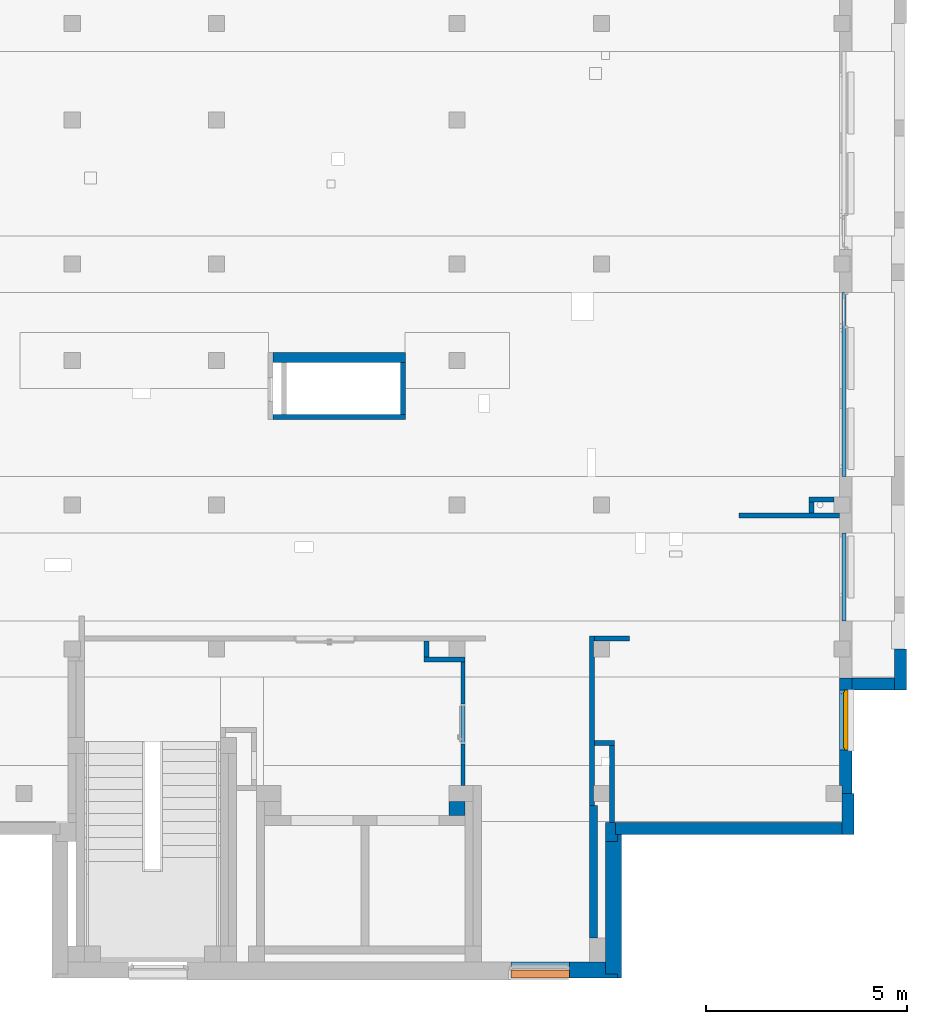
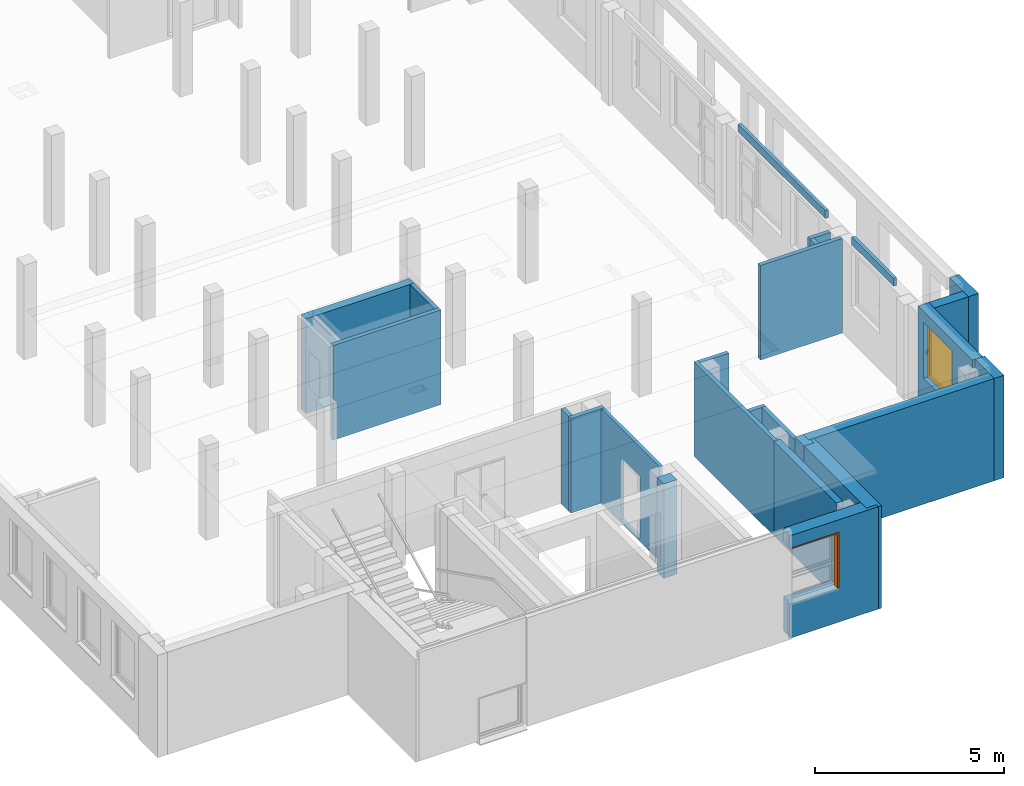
# One storey, part 5 of 27: 25 walls, 1 proxy, 1 window, 3 openings.
"""IFC4 building model written with IfcOpenShell, lengths in metres."""

from ifc_helpers import new_model, entity, si_unit, converted_unit, derived_unit, frame, frame_2d, origin, origin_with_axes, place, context, subcontext, project, spatial, polyline, rectangle, outline, extrude, clip, bounded_halfspace, closed_shell, open_shell, faceted_brep, surface_model, source, transform, mapped, material, layer, layer_set, layer_usage, element, fill, save


model = new_model("IFC4")

# Units and contexts
model_context = context("Model", 3, precision=1e-05, world=origin())
body_context = subcontext(model_context, "Body", "Model", "MODEL_VIEW")
ifc_project = project(units=[si_unit("LENGTHUNIT", "METRE"), si_unit("AREAUNIT", "SQUARE_METRE"), si_unit("VOLUMEUNIT", "CUBIC_METRE"), si_unit("MASSUNIT", "GRAM", prefix="KILO"), converted_unit("PLANEANGLEUNIT", "DEGREE", entity("IfcPlaneAngleMeasure", 0.0174532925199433), si_unit("PLANEANGLEUNIT", "RADIAN"), dimensions=[0, 0, 0, 0, 0, 0, 0]), derived_unit("THERMALTRANSMITTANCEUNIT", [(si_unit("POWERUNIT", "WATT"), 1), (si_unit("THERMODYNAMICTEMPERATUREUNIT", "KELVIN"), -1), (si_unit("LENGTHUNIT", "METRE"), -2)]), derived_unit("VOLUMETRICFLOWRATEUNIT", [(si_unit("LENGTHUNIT", "METRE"), 3), (converted_unit("TIMEUNIT", "hour", entity("IfcTimeMeasure", 3600.0), si_unit("TIMEUNIT", "SECOND"), dimensions=[0, 0, 1, 0, 0, 0, 0]), -1), (si_unit("LENGTHUNIT", "METRE"), -1)])], contexts=[model_context])

# Site, building, storey
site_placement = place(None, origin())
site = spatial("IfcSite", under=ifc_project, at=site_placement, Name="3. ASŘ", CompositionType="ELEMENT")
building_placement = place(site_placement, origin())
building = spatial("IfcBuilding", under=site, at=building_placement, Name="Pavilon C", CompositionType="ELEMENT")
storey_placement = place(building_placement, frame((0.0, 0.0, 10.5)))
storey = spatial("IfcBuildingStorey", under=building, at=storey_placement, Name="Půdorys 4.NP", CompositionType="ELEMENT", Elevation=10.5)

# Walls
ifc_material_1 = material(Name="ZELEZOBETONOVÁ KCE")
ifc_layer_1 = layer(ifc_material_1, 0.3)
ifc_layer_set_1 = layer_set([ifc_layer_1])
ifc_layer_usage_1 = layer_usage(ifc_layer_set_1, "AXIS2", "POSITIVE", 0.0)
wall_1_placement = place(storey_placement, frame((50.25, -1.02000000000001, -0.1), z_axis=(0.0, 0.0, 1.0), x_axis=(0.0, 1.0, 0.0)))
element("IfcWall", 1, at=wall_1_placement, inside=storey, material=ifc_layer_usage_1, Name="ZELEZOBETONOVÁ KCE", context=body_context, shape_type="SweptSolid", body=[
    extrude(rectangle(XDim=1.02, YDim=0.3, at=frame_2d((0.51, 0.15), x_axis=(1.0, 0.0))), origin_with_axes(), (0.0, 0.0, 1.0), 3.3),
])
ifc_material_2 = material(Name="ZELEZOBETONOVÁ KCE")
ifc_layer_2 = layer(ifc_material_2, 0.2)
ifc_layer_set_2 = layer_set([ifc_layer_2])
ifc_layer_usage_2 = layer_usage(ifc_layer_set_2, "AXIS2", "POSITIVE", 0.0)
wall_2_placement = place(storey_placement, frame((43.65, -0.299999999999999, -0.1), z_axis=(0.0, 0.0, 1.0), x_axis=(0.0, -1.0, 0.0)))
element("IfcWall", 2, at=wall_2_placement, inside=storey, material=ifc_layer_usage_2, Name="ZELEZOBETONOVÁ KCE", context=body_context, shape_type="SweptSolid", body=[
    extrude(rectangle(XDim=3.3, YDim=0.2, at=frame_2d((1.65, 0.1), x_axis=(1.0, 0.0))), origin_with_axes(), (0.0, 0.0, 1.0), 3.05),
])

# Wall, opening, window
ifc_material_3 = material(Name="PLYNOSILIKÁT")
ifc_layer_3 = layer(ifc_material_3, 0.32)
ifc_layer_set_3 = layer_set([ifc_layer_3])
ifc_layer_usage_3 = layer_usage(ifc_layer_set_3, "AXIS2", "POSITIVE", 0.0)
wall_3_placement = place(storey_placement, frame((50.2, -5.51980683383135e-15, -0.1), z_axis=(0.0, 0.0, 1.0), x_axis=(0.0, 1.0, 0.0)))
wall_3 = element("IfcWall", 3, at=wall_3_placement, inside=storey, material=ifc_layer_usage_3, Name="PLYNOSILIKÁT", context=body_context, shape_type="Clipping", body=[
    clip(extrude(rectangle(XDim=2.88, YDim=0.32, at=frame_2d((1.44, 0.16), x_axis=(1.0, 0.0))), origin_with_axes(), (0.0, 0.0, 1.0), 3.3), bounded_halfspace(frame((0.0999999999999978, 0.285, 3.05), z_axis=(0.0, 0.0, 1.0), x_axis=(0.0, 1.0, 0.0)), True, origin_with_axes(), polyline([(0.199999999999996, 0.25), (0.199999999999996, 0.32), (6.28386231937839e-17, 0.32), (6.28386231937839e-17, 0.25), (0.199999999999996, 0.25)]))),
])
opening_1_placement = place(wall_3_placement, frame((1.08, 0.0, 1.15), z_axis=(0.0, 1.0, 0.0), x_axis=(0.0, 0.0, 1.0)))
opening_1 = element("IfcOpeningElement", 4, at=opening_1_placement, cuts=wall_3, Name="Okenní otvor", ObjectType="Opening", context=body_context, shape_type="SweptSolid", body=[
    extrude(outline(polyline([(0.0, 1.5), (1.8, 1.5), (1.8, 0.0), (0.0, 0.0), (0.0, 1.5)])), origin_with_axes(), (0.0, 0.0, 1.0), 0.32),
])
shared_shape = source(origin_with_axes(), body_context, "Body", "SurfaceModel", [
    surface_model("IfcShellBasedSurfaceModel", [(0.0, 0.0920000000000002, 1.8), (0.0, 0.092, -5.63337527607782e-18), (0.08, 0.092, -5.63337527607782e-18), (0.08, 0.0920000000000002, 1.8), (0.0, 0.0, 5.63337527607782e-18), (0.0, 2.27373675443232e-16, 1.8), (0.08, 2.27373675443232e-16, 1.8), (0.08, 0.0, 5.63337527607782e-18)], [closed_shell([[[0, 1, 2, 3]], [[4, 5, 6, 7]], [[1, 0, 5, 4]], [[2, 1, 4, 7]], [[3, 2, 7, 6]], [[0, 3, 6, 5]]], orient=[[False], [False], [False], [False], [False], [False]])]),
    surface_model("IfcShellBasedSurfaceModel", [(1.42, 0.0920000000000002, 1.8), (1.42, 0.092, -5.63337527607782e-18), (1.5, 0.092, -5.63337527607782e-18), (1.5, 0.0920000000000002, 1.8), (1.42, 0.0, 5.63337527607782e-18), (1.42, 2.27373675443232e-16, 1.8), (1.5, 2.27373675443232e-16, 1.8), (1.5, 0.0, 5.63337527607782e-18)], [closed_shell([[[0, 1, 2, 3]], [[4, 5, 6, 7]], [[1, 0, 5, 4]], [[2, 1, 4, 7]], [[3, 2, 7, 6]], [[0, 3, 6, 5]]], orient=[[False], [False], [False], [False], [False], [False]])]),
    surface_model("IfcShellBasedSurfaceModel", [(0.08, 0.092, 0.08), (0.08, 0.092, -5.63337527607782e-18), (1.42, 0.092, -5.63337527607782e-18), (1.42, 0.092, 0.08), (0.08, 0.0, 5.63337527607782e-18), (0.08, 1.4210854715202e-17, 0.08), (1.42, 1.4210854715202e-17, 0.08), (1.42, 0.0, 5.63337527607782e-18)], [closed_shell([[[0, 1, 2, 3]], [[4, 5, 6, 7]], [[1, 0, 5, 4]], [[2, 1, 4, 7]], [[3, 2, 7, 6]], [[0, 3, 6, 5]]], orient=[[False], [False], [False], [False], [False], [False]])]),
    surface_model("IfcShellBasedSurfaceModel", [(0.08, 0.0920000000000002, 1.8), (0.08, 0.0920000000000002, 1.72), (1.42, 0.0920000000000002, 1.72), (1.42, 0.0920000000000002, 1.8), (0.08, 2.1316282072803e-16, 1.72), (0.08, 2.27373675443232e-16, 1.8), (1.42, 2.27373675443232e-16, 1.8), (1.42, 2.1316282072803e-16, 1.72)], [closed_shell([[[0, 1, 2, 3]], [[4, 5, 6, 7]], [[1, 0, 5, 4]], [[2, 1, 4, 7]], [[3, 2, 7, 6]], [[0, 3, 6, 5]]], orient=[[False], [False], [False], [False], [False], [False]])]),
    surface_model("IfcShellBasedSurfaceModel", [(0.05, 0.122, 1.75), (0.05, 0.122, 0.05), (0.13, 0.122, 0.05), (0.13, 0.122, 1.75), (0.05, 0.037, 0.05), (0.05, 0.0370000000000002, 1.75), (0.13, 0.0370000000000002, 1.75), (0.13, 0.037, 0.05)], [closed_shell([[[0, 1, 2, 3]], [[4, 5, 6, 7]], [[1, 0, 5, 4]], [[2, 1, 4, 7]], [[3, 2, 7, 6]], [[0, 3, 6, 5]]], orient=[[False], [False], [False], [False], [False], [False]])]),
    surface_model("IfcShellBasedSurfaceModel", [(1.37, 0.122, 1.75), (1.37, 0.122, 0.05), (1.45, 0.122, 0.05), (1.45, 0.122, 1.75), (1.37, 0.037, 0.05), (1.37, 0.0370000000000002, 1.75), (1.45, 0.0370000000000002, 1.75), (1.45, 0.037, 0.05)], [closed_shell([[[0, 1, 2, 3]], [[4, 5, 6, 7]], [[1, 0, 5, 4]], [[2, 1, 4, 7]], [[3, 2, 7, 6]], [[0, 3, 6, 5]]], orient=[[False], [False], [False], [False], [False], [False]])]),
    surface_model("IfcShellBasedSurfaceModel", [(0.13, 0.122, 0.13), (0.13, 0.122, 0.05), (1.37, 0.122, 0.05), (1.37, 0.122, 0.13), (0.13, 0.037, 0.05), (0.13, 0.037, 0.13), (1.37, 0.037, 0.13), (1.37, 0.037, 0.05)], [closed_shell([[[0, 1, 2, 3]], [[4, 5, 6, 7]], [[1, 0, 5, 4]], [[2, 1, 4, 7]], [[3, 2, 7, 6]], [[0, 3, 6, 5]]], orient=[[False], [False], [False], [False], [False], [False]])]),
    surface_model("IfcShellBasedSurfaceModel", [(0.13, 0.122, 1.75), (0.13, 0.122, 1.67), (1.37, 0.122, 1.67), (1.37, 0.122, 1.75), (0.13, 0.0370000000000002, 1.67), (0.13, 0.0370000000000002, 1.75), (1.37, 0.0370000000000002, 1.75), (1.37, 0.0370000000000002, 1.67)], [closed_shell([[[0, 1, 2, 3]], [[4, 5, 6, 7]], [[1, 0, 5, 4]], [[2, 1, 4, 7]], [[3, 2, 7, 6]], [[0, 3, 6, 5]]], orient=[[False], [False], [False], [False], [False], [False]])]),
    surface_model("IfcShellBasedSurfaceModel", [(1.3975, 0.122, 0.945), (1.4225, 0.122, 0.945), (1.4225, 0.122, 0.905), (1.3975, 0.122, 0.905), (1.3975, 0.132, 0.905), (1.4225, 0.132, 0.905), (1.4225, 0.132, 0.945), (1.3975, 0.132, 0.945)], [closed_shell([[[0, 1, 2, 3]], [[4, 5, 6, 7]], [[3, 4, 7, 0]], [[2, 5, 4, 3]], [[1, 6, 5, 2]], [[0, 7, 6, 1]]], orient=[[False], [False], [False], [False], [False], [False]])]),
    surface_model("IfcShellBasedSurfaceModel", [(1.42, 0.132, 0.925), (1.41866025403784, 0.132, 0.92), (1.415, 0.132, 0.916339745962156), (1.41, 0.132, 0.915), (1.405, 0.132, 0.916339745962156), (1.40133974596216, 0.132, 0.92), (1.4, 0.132, 0.925), (1.40133974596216, 0.132, 0.93), (1.405, 0.132, 0.933660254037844), (1.41, 0.132, 0.935), (1.415, 0.132, 0.933660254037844), (1.41866025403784, 0.132, 0.93), (1.41866025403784, 0.177, 0.93), (1.42, 0.172, 0.925), (1.415, 0.180660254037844, 0.933660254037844), (1.41, 0.182, 0.935), (1.405, 0.180660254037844, 0.933660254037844), (1.40133974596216, 0.177, 0.93), (1.4, 0.172, 0.925), (1.40133974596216, 0.167, 0.92), (1.405, 0.163339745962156, 0.916339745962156), (1.41, 0.162, 0.915), (1.415, 0.163339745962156, 0.916339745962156), (1.41866025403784, 0.167, 0.92), (1.41866025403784, 0.177, 0.81), (1.42, 0.172, 0.81), (1.415, 0.180660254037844, 0.81), (1.41, 0.182, 0.81), (1.405, 0.180660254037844, 0.81), (1.40133974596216, 0.177, 0.81), (1.4, 0.172, 0.81), (1.40133974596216, 0.167, 0.81), (1.405, 0.163339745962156, 0.81), (1.41, 0.162, 0.81), (1.415, 0.163339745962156, 0.81), (1.41866025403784, 0.167, 0.81)], [open_shell([[[0, 1, 2, 3, 4, 5, 6, 7, 8, 9, 10, 11]], [[0, 11, 12, 13]], [[11, 10, 14, 12]], [[10, 9, 15, 14]], [[9, 8, 16, 15]], [[8, 7, 17, 16]], [[7, 6, 18, 17]], [[6, 5, 19, 18]], [[5, 4, 20, 19]], [[4, 3, 21, 20]], [[3, 2, 22, 21]], [[2, 1, 23, 22]], [[1, 0, 13, 23]], [[13, 12, 24, 25]], [[12, 14, 26, 24]], [[14, 15, 27, 26]], [[15, 16, 28, 27]], [[16, 17, 29, 28]], [[17, 18, 30, 29]], [[18, 19, 31, 30]], [[19, 20, 32, 31]], [[20, 21, 33, 32]], [[21, 22, 34, 33]], [[22, 23, 35, 34]], [[23, 13, 25, 35]]], orient=[[False], [False], [False], [False], [False], [False], [False], [False], [False], [False], [False], [False], [False], [False], [False], [False], [False], [False], [False], [False], [False], [False], [False], [False], [False]])]),
    surface_model("IfcShellBasedSurfaceModel", [(0.13, 0.0795, 0.13), (1.37, 0.0795, 0.13), (1.37, 0.0795000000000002, 1.67), (0.13, 0.0795000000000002, 1.67)], [open_shell([[[0, 1, 2, 3]]], orient=[[False]])]),
])
window_placement = place(opening_1_placement, frame((0.0, -4.54747350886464e-16, 0.100000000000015), z_axis=(1.0, 0.0, 0.0), x_axis=(0.0, 0.999999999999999, -1.22464679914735e-16)))
window = element("IfcWindow", 5, at=window_placement, inside=storey, Name="O06", OverallHeight=1.8, OverallWidth=1.5, PartitioningType="USERDEFINED", PredefinedType="WINDOW", context=body_context, shape_type="MappedRepresentation", body=[
    mapped(shared_shape, transform((0.0, 0.0, 0.0), x_axis=(1.0, 0.0, 0.0), y_axis=(0.0, 1.0, 0.0), z_axis=(0.0, 0.0, 1.0), scale=0.999999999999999)),
])
fill(opening_1, window)

# Walls
ifc_material_4 = material(Name="ZDIVO Z CDm")
ifc_layer_4 = layer(ifc_material_4, 0.35)
ifc_layer_set_4 = layer_set([ifc_layer_4])
ifc_layer_usage_4 = layer_usage(ifc_layer_set_4, "AXIS2", "POSITIVE", 0.0)
wall_4_placement = place(storey_placement, frame((40.55, -0.200000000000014, -0.1), z_axis=(0.0, 0.0, 1.0), x_axis=(-1.0, 0.0, 0.0)))
element("IfcWall", 6, at=wall_4_placement, inside=storey, material=ifc_layer_usage_4, Name="ZDIVO Z CDm", context=body_context, shape_type="SweptSolid", body=[
    extrude(rectangle(XDim=0.4, YDim=0.35, at=frame_2d((0.2, 0.175), x_axis=(1.0, 0.0))), origin_with_axes(), (0.0, 0.0, 1.0), 3.05),
])
ifc_material_5 = material(Name="ZDIVO Z CDm")
ifc_layer_5 = layer(ifc_material_5, 0.125)
ifc_layer_set_5 = layer_set([ifc_layer_5])
ifc_layer_usage_5 = layer_usage(ifc_layer_set_5, "AXIS2", "POSITIVE", 0.0)
wall_5_placement = place(storey_placement, frame((44.15, 1.19999999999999, -0.1), z_axis=(0.0, 0.0, 1.0), x_axis=(0.0, -1.0, 0.0)))
element("IfcWall", 7, at=wall_5_placement, inside=storey, material=ifc_layer_usage_5, Name="ZDIVO Z CDm", context=body_context, shape_type="SweptSolid", body=[
    extrude(rectangle(XDim=1.92, YDim=0.125, at=frame_2d((0.959999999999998, 0.0625), x_axis=(1.0, 0.0))), origin_with_axes(), (0.0, 0.0, 1.0), 3.05),
])
ifc_material_6 = material(Name="ZDIVO Z CDm")
ifc_layer_6 = layer(ifc_material_6, 0.125)
ifc_layer_set_6 = layer_set([ifc_layer_6])
ifc_layer_usage_6 = layer_usage(ifc_layer_set_6, "AXIS2", "POSITIVE", 0.0)
wall_6_placement = place(storey_placement, frame((43.775, 1.19999999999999, -0.1)))
element("IfcWall", 8, at=wall_6_placement, inside=storey, material=ifc_layer_usage_6, Name="ZDIVO Z CDm", context=body_context, shape_type="SweptSolid", body=[
    extrude(rectangle(XDim=0.500000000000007, YDim=0.125, at=frame_2d((0.250000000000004, 0.0625000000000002), x_axis=(1.0, 0.0))), origin_with_axes(), (0.0, 0.0, 1.0), 3.05),
])
ifc_material_7 = material(Name="ZDIVO Z CDm")
ifc_layer_7 = layer(ifc_material_7, 0.125)
ifc_layer_set_7 = layer_set([ifc_layer_7])
ifc_layer_usage_7 = layer_usage(ifc_layer_set_7, "AXIS2", "POSITIVE", 0.0)
wall_7_placement = place(storey_placement, frame((40.55, 3.39999999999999, -0.1), z_axis=(0.0, 0.0, 1.0), x_axis=(-1.0, 0.0, 0.0)))
element("IfcWall", 9, at=wall_7_placement, inside=storey, material=ifc_layer_usage_7, Name="ZDIVO Z CDm", context=body_context, shape_type="SweptSolid", body=[
    extrude(rectangle(XDim=1.025, YDim=0.125, at=frame_2d((0.5125, 0.0625000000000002), x_axis=(1.0, 0.0))), origin_with_axes(), (0.0, 0.0, 1.0), 3.05),
])

# Wall, opening
ifc_material_8 = material(Name="ZDIVO Z CDm")
ifc_layer_8 = layer(ifc_material_8, 0.1)
ifc_layer_set_8 = layer_set([ifc_layer_8])
ifc_layer_usage_8 = layer_usage(ifc_layer_set_8, "AXIS2", "POSITIVE", 0.0)
wall_8_placement = place(storey_placement, frame((40.55, 0.199999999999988, -0.1), z_axis=(0.0, 0.0, 1.0), x_axis=(0.0, 1.0, 0.0)))
wall_8 = element("IfcWall", 10, at=wall_8_placement, inside=storey, material=ifc_layer_usage_8, Name="ZDIVO Z CDm", context=body_context, shape_type="SweptSolid", body=[
    extrude(rectangle(XDim=3.075, YDim=0.1, at=frame_2d((1.5375, 0.05), x_axis=(1.0, 0.0))), origin_with_axes(), (0.0, 0.0, 1.0), 3.05),
])
opening_2_placement = place(wall_8_placement, frame((2.0375, 0.1, 0.1), z_axis=(0.0, -1.0, 0.0), x_axis=(0.0, 0.0, 1.0)))
element("IfcOpeningElement", 11, at=opening_2_placement, cuts=wall_8, Name="Dveřní otvor", ObjectType="Opening", context=body_context, shape_type="SweptSolid", body=[
    extrude(outline(polyline([(0.0, 1.0), (2.02, 1.0), (2.02, 0.0), (0.0, 0.0), (0.0, 1.0)])), origin_with_axes(), (0.0, 0.0, 1.0), 0.1),
])

# Walls
ifc_material_9 = material(Name="ZDIVO Z CDm")
ifc_layer_9 = layer(ifc_material_9, 0.125)
ifc_layer_set_9 = layer_set([ifc_layer_9])
ifc_layer_usage_9 = layer_usage(ifc_layer_set_9, "AXIS2", "POSITIVE", 0.0)
wall_9_placement = place(storey_placement, frame((43.65, 3.92499999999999, -0.1), z_axis=(0.0, 0.0, 1.0), x_axis=(0.0, -1.0, 0.0)))
element("IfcWall", 12, at=wall_9_placement, inside=storey, material=ifc_layer_usage_9, Name="ZDIVO Z CDm", context=body_context, shape_type="SweptSolid", body=[
    extrude(outline(polyline([(-4.22499999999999, 0.0), (0.0, 0.0), (0.0, 0.125), (-0.0999999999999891, 0.125), (-0.0999999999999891, 0.100000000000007), (-0.499999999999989, 0.100000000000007), (-0.499999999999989, 0.125), (-3.69999999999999, 0.125), (-3.69999999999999, 0.100000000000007), (-4.09999999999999, 0.100000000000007), (-4.09999999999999, 0.125), (-4.22499999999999, 0.125), (-4.22499999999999, 0.0)])), frame((4.22499999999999, 0.0, 0.0), z_axis=(0.0, 0.0, 1.0), x_axis=(1.0, 0.0, 0.0)), (0.0, 0.0, 1.0), 3.05),
])
ifc_material_10 = material(Name="ZDIVO Z CDm")
ifc_layer_10 = layer(ifc_material_10, 0.125)
ifc_layer_set_10 = layer_set([ifc_layer_10])
ifc_layer_usage_10 = layer_usage(ifc_layer_set_10, "AXIS2", "POSITIVE", 0.0)
wall_10_placement = place(storey_placement, frame((39.65, 3.39999999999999, -0.1), z_axis=(0.0, 0.0, 1.0), x_axis=(0.0, 1.0, 0.0)))
element("IfcWall", 13, at=wall_10_placement, inside=storey, material=ifc_layer_usage_10, Name="ZDIVO Z CDm", context=body_context, shape_type="SweptSolid", body=[
    extrude(rectangle(XDim=0.400000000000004, YDim=0.125, at=frame_2d((0.200000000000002, 0.0625), x_axis=(1.0, 0.0))), origin_with_axes(), (0.0, 0.0, 1.0), 3.05),
])
ifc_material_11 = material(Name="ZDIVO Z CDm")
ifc_layer_11 = layer(ifc_material_11, 0.125)
ifc_layer_set_11 = layer_set([ifc_layer_11])
ifc_layer_usage_11 = layer_usage(ifc_layer_set_11, "AXIS2", "POSITIVE", 0.0)
wall_11_placement = place(storey_placement, frame((43.775, 3.79999999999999, -0.1)))
element("IfcWall", 14, at=wall_11_placement, inside=storey, material=ifc_layer_usage_11, Name="ZDIVO Z CDm", context=body_context, shape_type="SweptSolid", body=[
    extrude(rectangle(XDim=0.875000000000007, YDim=0.125, at=frame_2d((0.437500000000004, 0.0625000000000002), x_axis=(1.0, 0.0))), origin_with_axes(), (0.0, 0.0, 1.0), 3.05),
])
ifc_material_12 = material(Name="ZELEZOBETONOVÁ KCE")
ifc_layer_12 = layer(ifc_material_12, 0.3)
ifc_layer_set_12 = layer_set([ifc_layer_12])
ifc_layer_usage_12 = layer_usage(ifc_layer_set_12, "AXIS2", "POSITIVE", 0.0)
wall_12_placement = place(storey_placement, frame((50.2, 2.58, -0.1)))
element("IfcWall", 15, at=wall_12_placement, inside=storey, material=ifc_layer_usage_12, Name="ZELEZOBETONOVÁ KCE", context=body_context, shape_type="SweptSolid", body=[
    extrude(rectangle(XDim=1.05, YDim=0.3, at=frame_2d((0.525, 0.15), x_axis=(1.0, 0.0))), origin_with_axes(), (0.0, 0.0, 1.0), 3.3),
])
ifc_material_13 = material(Name="ZELEZOBETONOVÁ KCE")
ifc_layer_13 = layer(ifc_material_13, 0.3)
ifc_layer_set_13 = layer_set([ifc_layer_13])
ifc_layer_usage_13 = layer_usage(ifc_layer_set_13, "AXIS2", "POSITIVE", 0.0)
wall_13_placement = place(storey_placement, frame((51.55, 2.58, -0.1), z_axis=(0.0, 0.0, 1.0), x_axis=(0.0, 1.0, 0.0)))
element("IfcWall", 16, at=wall_13_placement, inside=storey, material=ifc_layer_usage_13, Name="ZELEZOBETONOVÁ KCE", context=body_context, shape_type="SweptSolid", body=[
    extrude(rectangle(XDim=1.02, YDim=0.3, at=frame_2d((0.51, 0.15), x_axis=(1.0, 0.0))), origin_with_axes(), (0.0, 0.0, 1.0), 3.3),
])
ifc_material_14 = material(Name="ZELEZOBETONOVÁ KCE")
ifc_layer_14 = layer(ifc_material_14, 0.3)
ifc_layer_set_14 = layer_set([ifc_layer_14])
ifc_layer_usage_14 = layer_usage(ifc_layer_set_14, "AXIS2", "POSITIVE", 0.0)
wall_14_placement = place(storey_placement, frame((44.3, -1.02, -0.1)))
element("IfcWall", 17, at=wall_14_placement, inside=storey, material=ifc_layer_usage_14, Name="ZELEZOBETONOVÁ KCE", context=body_context, shape_type="SweptSolid", body=[
    extrude(rectangle(XDim=5.65, YDim=0.3, at=frame_2d((2.825, 0.15), x_axis=(1.0, 0.0))), origin_with_axes(), (0.0, 0.0, 1.0), 3.3),
])
ifc_material_15 = material(Name="ZDIVO Z CDm")
ifc_layer_15 = layer(ifc_material_15, 0.48)
ifc_layer_set_15 = layer_set([ifc_layer_15])
ifc_layer_usage_15 = layer_usage(ifc_layer_set_15, "AXIS2", "POSITIVE", 0.0)
wall_15_placement = place(storey_placement, frame((44.3, -0.720000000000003, -0.1), z_axis=(0.0, 0.0, 1.0), x_axis=(-1.0, 0.0, 0.0)))
element("IfcWall", 18, at=wall_15_placement, inside=storey, material=ifc_layer_usage_15, Name="ZDIVO Z CDm", context=body_context, shape_type="SweptSolid", body=[
    extrude(outline(polyline([(-0.25, -0.48), (0.0, -0.48), (0.0, 0.0), (-0.3, 0.0), (-0.3, -0.18), (-0.25, -0.18), (-0.25, -0.48)])), frame((0.25, 0.48, 0.0), z_axis=(0.0, 0.0, 1.0), x_axis=(1.0, 0.0, 0.0)), (0.0, 0.0, 1.0), 3.3),
])
ifc_material_16 = material(Name="ZDIVO Z CDm")
ifc_layer_16 = layer(ifc_material_16, 0.25)
ifc_layer_set_16 = layer_set([ifc_layer_16])
ifc_layer_usage_16 = layer_usage(ifc_layer_set_16, "AXIS2", "POSITIVE", 0.0)
wall_16_placement = place(storey_placement, frame((35.7625, 10.75, -0.1)))
element("IfcWall", 19, at=wall_16_placement, inside=storey, material=ifc_layer_usage_16, Name="ZDIVO Z CDm", context=body_context, shape_type="SweptSolid", body=[
    extrude(rectangle(XDim=3.3, YDim=0.25, at=frame_2d((1.65, 0.125), x_axis=(1.0, 0.0))), origin_with_axes(), (0.0, 0.0, 1.0), 3.05),
])
ifc_material_17 = material(Name="ZDIVO Z CDm")
ifc_layer_17 = layer(ifc_material_17, 0.125)
ifc_layer_set_17 = layer_set([ifc_layer_17])
ifc_layer_usage_17 = layer_usage(ifc_layer_set_17, "AXIS2", "POSITIVE", 0.0)
wall_17_placement = place(storey_placement, frame((38.9375, 10.75, -0.1), z_axis=(0.0, 0.0, 1.0), x_axis=(0.0, -1.0, 0.0)))
element("IfcWall", 20, at=wall_17_placement, inside=storey, material=ifc_layer_usage_17, Name="ZDIVO Z CDm", context=body_context, shape_type="SweptSolid", body=[
    extrude(rectangle(XDim=1.29999999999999, YDim=0.125, at=frame_2d((0.649999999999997, 0.0625), x_axis=(1.0, 0.0))), origin_with_axes(), (0.0, 0.0, 1.0), 3.05),
])
ifc_material_18 = material(Name="ZDIVO Z CDm")
ifc_layer_18 = layer(ifc_material_18, 0.125)
ifc_layer_set_18 = layer_set([ifc_layer_18])
ifc_layer_usage_18 = layer_usage(ifc_layer_set_18, "AXIS2", "POSITIVE", 0.0)
wall_18_placement = place(storey_placement, frame((39.0625, 9.44999999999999, -0.1), z_axis=(0.0, 0.0, 1.0), x_axis=(-1.0, 0.0, 0.0)))
element("IfcWall", 21, at=wall_18_placement, inside=storey, material=ifc_layer_usage_18, Name="ZDIVO Z CDm", context=body_context, shape_type="SweptSolid", body=[
    extrude(rectangle(XDim=3.3, YDim=0.125, at=frame_2d((1.65, 0.0625), x_axis=(1.0, 0.0))), origin_with_axes(), (0.0, 0.0, 1.0), 3.05),
])
ifc_material_19 = material(Name="EPS")
ifc_layer_19 = layer(ifc_material_19, 0.1)
ifc_material_20 = material(Name="ZELEZOBETONOVÁ KCE")
ifc_layer_20 = layer(ifc_material_20, 0.3)
ifc_layer_set_19 = layer_set([ifc_layer_19, ifc_layer_20])
ifc_layer_usage_19 = layer_usage(ifc_layer_set_19, "AXIS2", "POSITIVE", -0.1)
wall_19_placement = place(storey_placement, frame((44.45, -4.6, -0.1), z_axis=(0.0, 0.0, 1.0), x_axis=(0.0, 1.0, 0.0)))
element("IfcWall", 22, at=wall_19_placement, inside=storey, material=ifc_layer_usage_19, Name="ZELEZOBETONOVÁ KCE", context=body_context, shape_type="SweptSolid", body=[
    extrude(outline(polyline([(0.0, -0.4), (3.58, -0.4), (3.58, -0.3), (3.4, -0.3), (3.4, 0.0), (0.1, 0.0), (0.1, -0.3), (0.0, -0.3), (0.0, -0.4)])), frame((0.0, 0.4, 0.0), z_axis=(0.0, 0.0, 1.0), x_axis=(1.0, 0.0, 0.0)), (0.0, 0.0, 1.0), 3.3),
])

# Wall, opening, proxy
ifc_material_21 = material(Name="EPS")
ifc_layer_21 = layer(ifc_material_21, 0.1)
ifc_material_22 = material(Name="ZELEZOBETONOVÁ KCE")
ifc_layer_22 = layer(ifc_material_22, 0.3)
ifc_layer_set_20 = layer_set([ifc_layer_21, ifc_layer_22])
ifc_layer_usage_20 = layer_usage(ifc_layer_set_20, "AXIS2", "POSITIVE", -0.1)
wall_20_placement = place(storey_placement, frame((41.65, -4.6, -0.1)))
wall_20 = element("IfcWall", 23, at=wall_20_placement, inside=storey, material=ifc_layer_usage_20, Name="ZELEZOBETONOVÁ KCE", context=body_context, shape_type="Clipping", body=[
    clip(extrude(outline(polyline([(0.0, 0.0), (2.7, 0.0), (2.7, 0.1), (2.4, 0.1), (2.4, 0.4), (0.04, 0.4), (0.04, 0.1), (0.0, 0.1), (0.0, 0.0)])), origin_with_axes(), (0.0, 0.0, 1.0), 3.3), bounded_halfspace(frame((1.576, 0.06, 2.9), z_axis=(0.0, 0.0, -1.0), x_axis=(0.0, -1.0, 0.0)), True, origin_with_axes(), polyline([(0.04, 0.1), (0.04, 0.0), (2.7, 0.0), (2.7, 0.1), (2.4, 0.1), (0.04, 0.1)]))),
])
opening_3_placement = place(wall_20_placement, frame((0.0, 0.0, 1.1), z_axis=(0.0, 1.0, 0.0), x_axis=(0.0, 0.0, 1.0)))
opening_3 = element("IfcOpeningElement", 24, at=opening_3_placement, cuts=wall_20, Name="Okenní otvor", ObjectType="Opening", context=body_context, shape_type="SweptSolid", body=[
    extrude(outline(polyline([(0.0, 1.5), (1.8, 1.5), (1.8, 0.0), (0.0, 0.0), (0.0, 1.5)])), origin_with_axes(), (0.0, 0.0, 1.0), 0.1),
    extrude(outline(polyline([(0.0, 1.5), (1.8, 1.5), (1.8, 0.0), (0.0, 0.0), (0.0, 1.5)])), frame((0.0, 0.0, 0.1), z_axis=(0.0, 0.0, 1.0), x_axis=(1.0, 0.0, 0.0)), (0.0, 0.0, 1.0), 0.3),
])
ifc_material_23 = material(Name="EPS")
proxy_placement = place(opening_3_placement, frame((0.0, 0.04, 0.0)))
proxy = element("IfcBuildingElementProxy", 25, at=proxy_placement, inside=storey, material=ifc_material_23, context=body_context, shape_type="Brep", body=[
    faceted_brep([(0.0, 1.46, 0.2), (0.0, 1.46, 0.0), (1.8, 1.46, 0.0), (1.8, 1.46, 0.2), (1.8, 0.0, 0.0), (1.8, 0.0, 0.2), (0.0, 1.42, 0.0), (0.0, 1.42, 0.2), (1.76, 0.0, 0.2), (1.76, 1.42, 0.2), (1.76, 1.42, 0.0), (1.76, 0.0, 0.0)], [[[0, 1, 2, 3]], [[2, 4, 5, 3]], [[6, 1, 0, 7]], [[7, 0, 3, 5, 8, 9]], [[1, 6, 10, 11, 4, 2]], [[6, 7, 9, 10]], [[11, 8, 5, 4]], [[8, 11, 10, 9]]], orient=[[False], [False], [False], [False], [False], [False], [False], [False]]),
])
fill(opening_3, proxy)

# Walls
ifc_material_24 = material(Name="ZDIVO Z CDm")
ifc_layer_23 = layer(ifc_material_24, 0.125)
ifc_layer_set_21 = layer_set([ifc_layer_23])
ifc_layer_usage_21 = layer_usage(ifc_layer_set_21, "AXIS2", "POSITIVE", 0.0)
wall_21_placement = place(storey_placement, frame((49.88, 6.99999999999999, -0.1), z_axis=(0.0, 0.0, 1.0), x_axis=(-1.0, 0.0, 0.0)))
element("IfcWall", 26, at=wall_21_placement, inside=storey, material=ifc_layer_usage_21, Name="ZDIVO Z CDm", context=body_context, shape_type="SweptSolid", body=[
    extrude(rectangle(XDim=2.5, YDim=0.125, at=frame_2d((1.25, 0.0625), x_axis=(1.0, 0.0))), origin_with_axes(), (0.0, 0.0, 1.0), 3.05),
])
ifc_material_25 = material(Name="ZDIVO Z CDm")
ifc_layer_24 = layer(ifc_material_25, 0.125)
ifc_layer_set_22 = layer_set([ifc_layer_24])
ifc_layer_usage_22 = layer_usage(ifc_layer_set_22, "AXIS2", "POSITIVE", 0.0)
wall_22_placement = place(storey_placement, frame((49.75, 7.39999999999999, -0.1), z_axis=(0.0, 0.0, 1.0), x_axis=(-1.0, 0.0, 0.0)))
element("IfcWall", 27, at=wall_22_placement, inside=storey, material=ifc_layer_usage_22, Name="ZDIVO Z CDm", context=body_context, shape_type="SweptSolid", body=[
    extrude(rectangle(XDim=0.625, YDim=0.125, at=frame_2d((0.3125, 0.0625), x_axis=(1.0, 0.0))), origin_with_axes(), (0.0, 0.0, 1.0), 3.05),
])
ifc_material_26 = material(Name="ZDIVO Z CDm")
ifc_layer_25 = layer(ifc_material_26, 0.125)
ifc_layer_set_23 = layer_set([ifc_layer_25])
ifc_layer_usage_23 = layer_usage(ifc_layer_set_23, "AXIS2", "POSITIVE", 0.0)
wall_23_placement = place(storey_placement, frame((49.125, 7.27499999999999, -0.1), z_axis=(0.0, 0.0, 1.0), x_axis=(0.0, -1.0, 0.0)))
element("IfcWall", 28, at=wall_23_placement, inside=storey, material=ifc_layer_usage_23, Name="ZDIVO Z CDm", context=body_context, shape_type="SweptSolid", body=[
    extrude(rectangle(XDim=0.275, YDim=0.125, at=frame_2d((0.1375, 0.0625), x_axis=(1.0, 0.0))), origin_with_axes(), (0.0, 0.0, 1.0), 3.05),
])
ifc_material_27 = material(Name="EPS")
ifc_layer_26 = layer(ifc_material_27, 0.1)
ifc_layer_set_24 = layer_set([ifc_layer_26])
ifc_layer_usage_24 = layer_usage(ifc_layer_set_24, "AXIS2", "POSITIVE", 0.0)
wall_24_placement = place(storey_placement, frame((49.95, 6.49999999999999, 2.95), z_axis=(0.0, 0.0, 1.0), x_axis=(0.0, -1.0, 0.0)))
element("IfcWall", 29, at=wall_24_placement, inside=storey, material=ifc_layer_usage_24, Name="EPS", context=body_context, shape_type="SweptSolid", body=[
    extrude(rectangle(XDim=2.2, YDim=0.1, at=frame_2d((1.1, 0.05), x_axis=(1.0, 0.0))), origin_with_axes(), (0.0, 0.0, 1.0), 0.25),
])
ifc_material_28 = material(Name="EPS")
ifc_layer_27 = layer(ifc_material_28, 0.1)
ifc_layer_set_25 = layer_set([ifc_layer_27])
ifc_layer_usage_25 = layer_usage(ifc_layer_set_25, "AXIS2", "POSITIVE", 0.0)
wall_25_placement = place(storey_placement, frame((49.95, 12.5, 2.95), z_axis=(0.0, 0.0, 1.0), x_axis=(0.0, -1.0, 0.0)))
element("IfcWall", 30, at=wall_25_placement, inside=storey, material=ifc_layer_usage_25, Name="EPS", context=body_context, shape_type="SweptSolid", body=[
    extrude(rectangle(XDim=4.6, YDim=0.1, at=frame_2d((2.3, 0.05), x_axis=(1.0, 0.0))), origin_with_axes(), (0.0, 0.0, 1.0), 0.25),
])

save(model, "model.ifc")
